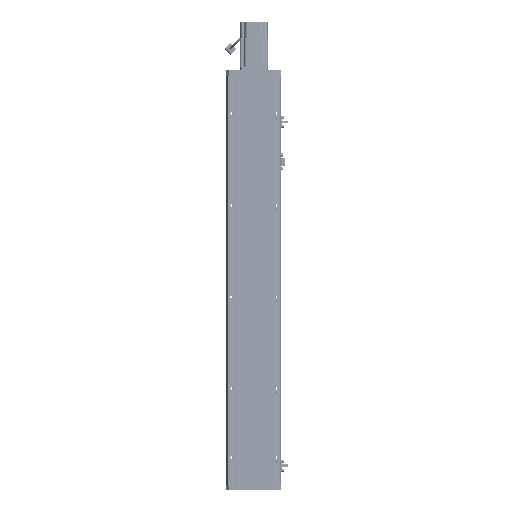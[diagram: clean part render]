
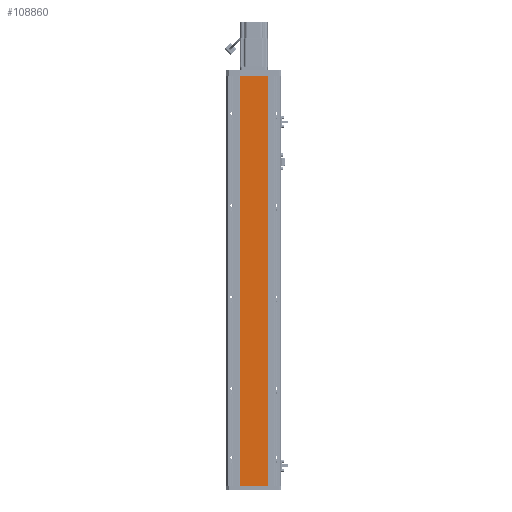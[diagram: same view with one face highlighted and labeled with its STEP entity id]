
A CAD part, front view. The second image highlights one B-rep face of the part: STEP entity #108860.
In plain terms, the highlighted planar face has unit normal (0, -1, 0).
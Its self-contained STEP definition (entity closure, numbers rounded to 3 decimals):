
#1533 = CARTESIAN_POINT ( 'NONE',  ( -30., 0., -896.5 ) ) ;
#4317 = CARTESIAN_POINT ( 'NONE',  ( 30., 0., -896.5 ) ) ;
#7398 = VERTEX_POINT ( 'NONE', #97869 ) ;
#8296 = DIRECTION ( 'NONE',  ( 0., 0., 1. ) ) ;
#8544 = EDGE_CURVE ( 'NONE', #81249, #80170, #62583, .T. ) ;
#13056 = DIRECTION ( 'NONE',  ( 0., 1., 0. ) ) ;
#21850 = LINE ( 'NONE', #75050, #65372 ) ;
#22930 = DIRECTION ( 'NONE',  ( -1., 0., 0. ) ) ;
#26799 = CARTESIAN_POINT ( 'NONE',  ( 30., 0., -896.5 ) ) ;
#32228 = LINE ( 'NONE', #42946, #55319 ) ;
#38908 = EDGE_CURVE ( 'NONE', #81249, #107436, #32228, .T. ) ;
#42424 = CARTESIAN_POINT ( 'NONE',  ( 30., 0., 0. ) ) ;
#42946 = CARTESIAN_POINT ( 'NONE',  ( 30., 0., -896.5 ) ) ;
#47242 = FACE_OUTER_BOUND ( 'NONE', #105210, .T. ) ;
#49628 = CARTESIAN_POINT ( 'NONE',  ( 30., 0., -896.5 ) ) ;
#53656 = DIRECTION ( 'NONE',  ( 0., 0., 1. ) ) ;
#55319 = VECTOR ( 'NONE', #8296, 1000. ) ;
#56386 = PLANE ( 'NONE',  #95646 ) ;
#56397 = ORIENTED_EDGE ( 'NONE', *, *, #8544, .F. ) ;
#59533 = LINE ( 'NONE', #1533, #80003 ) ;
#62583 = LINE ( 'NONE', #49628, #111575 ) ;
#65372 = VECTOR ( 'NONE', #22930, 1000. ) ;
#70033 = ORIENTED_EDGE ( 'NONE', *, *, #89885, .F. ) ;
#70236 = EDGE_CURVE ( 'NONE', #107436, #7398, #21850, .T. ) ;
#70931 = ORIENTED_EDGE ( 'NONE', *, *, #38908, .T. ) ;
#73921 = DIRECTION ( 'NONE',  ( -1., 0., 0. ) ) ;
#75050 = CARTESIAN_POINT ( 'NONE',  ( 30., 0., 0. ) ) ;
#80003 = VECTOR ( 'NONE', #53656, 1000. ) ;
#80170 = VERTEX_POINT ( 'NONE', #104508 ) ;
#81249 = VERTEX_POINT ( 'NONE', #26799 ) ;
#89885 = EDGE_CURVE ( 'NONE', #80170, #7398, #59533, .T. ) ;
#92264 = ORIENTED_EDGE ( 'NONE', *, *, #70236, .T. ) ;
#95646 = AXIS2_PLACEMENT_3D ( 'NONE', #4317, #13056, #73921 ) ;
#97869 = CARTESIAN_POINT ( 'NONE',  ( -30., 0., 0. ) ) ;
#101751 = DIRECTION ( 'NONE',  ( -1., 0., 0. ) ) ;
#104508 = CARTESIAN_POINT ( 'NONE',  ( -30., 0., -896.5 ) ) ;
#105210 = EDGE_LOOP ( 'NONE', ( #92264, #70033, #56397, #70931 ) ) ;
#107436 = VERTEX_POINT ( 'NONE', #42424 ) ;
#108860 = ADVANCED_FACE ( 'NONE', ( #47242 ), #56386, .F. ) ;
#111575 = VECTOR ( 'NONE', #101751, 1000. ) ;
